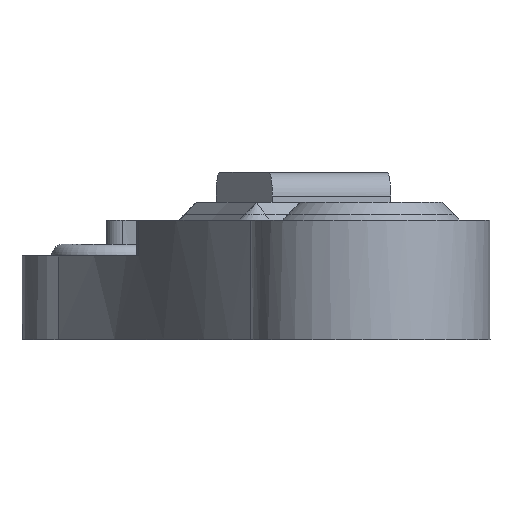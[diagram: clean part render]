
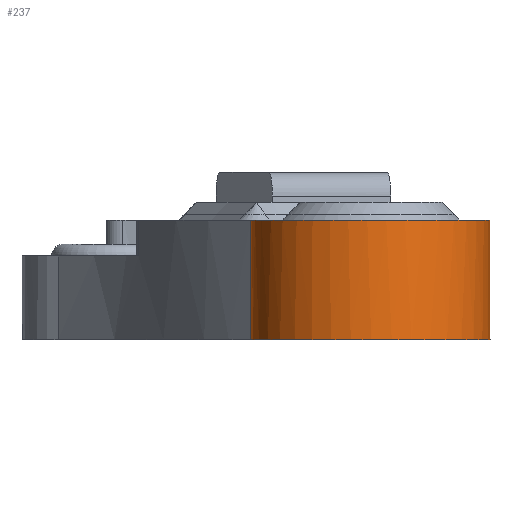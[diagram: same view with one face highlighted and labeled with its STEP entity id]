
A CAD part, left-side view. The second image highlights one B-rep face of the part: STEP entity #237.
In plain terms, the highlighted cylindrical face has radius 10 mm (diameter 20 mm), a partial arc.
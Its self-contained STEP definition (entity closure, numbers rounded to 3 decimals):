
#147=FACE_OUTER_BOUND('',#390,.T.);
#211=CYLINDRICAL_SURFACE('',#1448,10.);
#237=ADVANCED_FACE('',(#147),#211,.T.);
#390=EDGE_LOOP('',(#730,#731,#732,#733));
#476=LINE('',#2356,#525);
#525=VECTOR('',#1611,1.);
#577=CIRCLE('',#1447,10.);
#730=ORIENTED_EDGE('',*,*,#1205,.T.);
#731=ORIENTED_EDGE('',*,*,#1206,.T.);
#732=ORIENTED_EDGE('',*,*,#1207,.F.);
#733=ORIENTED_EDGE('',*,*,#1142,.T.);
#1014=VERTEX_POINT('',#1893);
#1015=VERTEX_POINT('',#1904);
#1063=VERTEX_POINT('',#2335);
#1064=VERTEX_POINT('',#2355);
#1142=EDGE_CURVE('',#1015,#1014,#1317,.T.);
#1205=EDGE_CURVE('',#1014,#1063,#1361,.T.);
#1206=EDGE_CURVE('',#1063,#1064,#577,.T.);
#1207=EDGE_CURVE('',#1015,#1064,#476,.T.);
#1317=B_SPLINE_CURVE_WITH_KNOTS('',3,(#1894,#1895,#1896,#1897,#1898,#1899,
#1900,#1901,#1902,#1903),.UNSPECIFIED.,.F.,.F.,(4,2,2,2,4),(0.,0.25,0.5,
0.75,1.),.UNSPECIFIED.);
#1361=B_SPLINE_CURVE_WITH_KNOTS('',3,(#2336,#2337,#2338,#2339),.UNSPECIFIED.,
 .F.,.F.,(4,4),(0.,1.),.UNSPECIFIED.);
#1447=AXIS2_PLACEMENT_3D('',#2354,#1609,#1610);
#1448=AXIS2_PLACEMENT_3D('',#2357,#1612,#1613);
#1609=DIRECTION('',(0.,0.,1.));
#1610=DIRECTION('',(-1.,0.,0.));
#1611=DIRECTION('',(0.,0.,-1.));
#1612=DIRECTION('',(0.,0.,1.));
#1613=DIRECTION('',(-1.,0.,0.));
#1893=CARTESIAN_POINT('',(24.269,35.64,-11.908));
#1894=CARTESIAN_POINT('',(26.141,15.769,-11.908));
#1895=CARTESIAN_POINT('',(23.45,15.341,-11.908));
#1896=CARTESIAN_POINT('',(20.595,16.073,-11.908));
#1897=CARTESIAN_POINT('',(16.289,19.412,-11.908));
#1898=CARTESIAN_POINT('',(14.87,21.995,-11.908));
#1899=CARTESIAN_POINT('',(14.359,27.419,-11.908));
#1900=CARTESIAN_POINT('',(15.271,30.222,-11.908));
#1901=CARTESIAN_POINT('',(18.878,34.306,-11.908));
#1902=CARTESIAN_POINT('',(21.546,35.558,-11.908));
#1903=CARTESIAN_POINT('',(24.269,35.64,-11.908));
#1904=CARTESIAN_POINT('',(26.141,15.769,-11.908));
#2335=CARTESIAN_POINT('',(24.269,35.64,-21.908));
#2336=CARTESIAN_POINT('',(24.269,35.64,-11.908));
#2337=CARTESIAN_POINT('',(24.269,35.64,-15.241));
#2338=CARTESIAN_POINT('',(24.269,35.64,-18.574));
#2339=CARTESIAN_POINT('',(24.269,35.64,-21.908));
#2354=CARTESIAN_POINT('',(24.57,25.645,-21.908));
#2355=CARTESIAN_POINT('',(26.141,15.769,-21.908));
#2356=CARTESIAN_POINT('',(26.141,15.769,-14.908));
#2357=CARTESIAN_POINT('',(24.57,25.645,-24.108));
